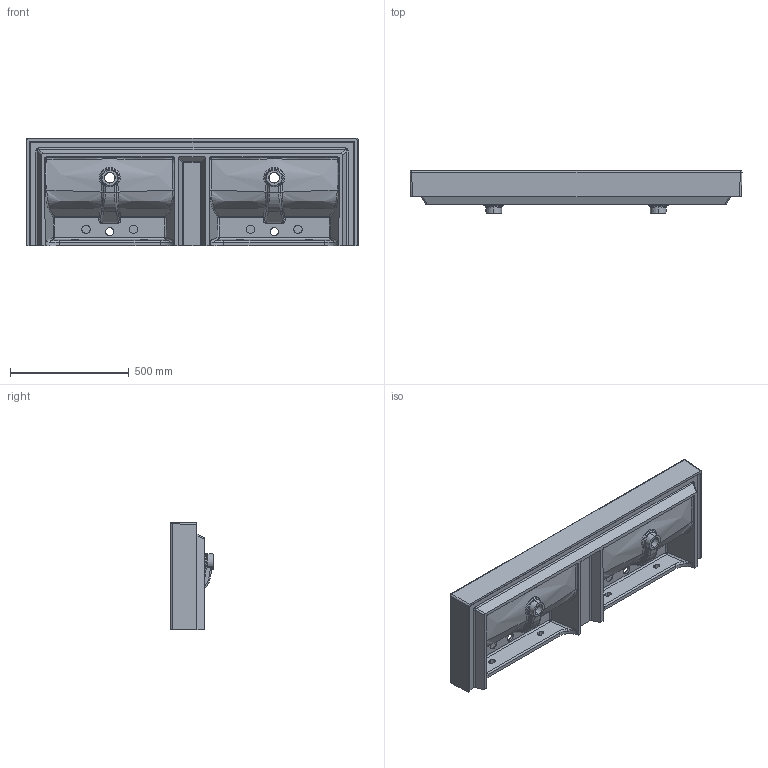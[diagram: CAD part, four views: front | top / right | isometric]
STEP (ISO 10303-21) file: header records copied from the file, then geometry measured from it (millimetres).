
FILE_DESCRIPTION (( 'STEP AP203' ), '1' );
FILE_NAME ('VELCA140DV.STEP', '2019-04-19T13:05:21', ( '' ), ( '' ), 'SwSTEP 2.0', 'SolidWorks 2017', '' );
FILE_SCHEMA (( 'CONFIG_CONTROL_DESIGN' ));
Length unit declared in the file: millimetre
Products named in the file (1): VELCA140DV
Bounding box: 1399.5 x 180 x 454.75 mm (x, y, z)
Volume: 26476143.7 mm3; surface area: 2201234.7 mm2
Topology: 1 solids, 1 shells, 348 faces, 843 edges, 471 vertices
Faces by surface type: bspline 164, cylinder 83, plane 60, sphere 31, cone 10
Entity records: 44407 total; most frequent: CARTESIAN_POINT 37706, ORIENTED_EDGE 1602, DIRECTION 1077, EDGE_CURVE 801, VERTEX_POINT 463, AXIS2_PLACEMENT_3D 439, EDGE_LOOP 372, FACE_OUTER_BOUND 348
